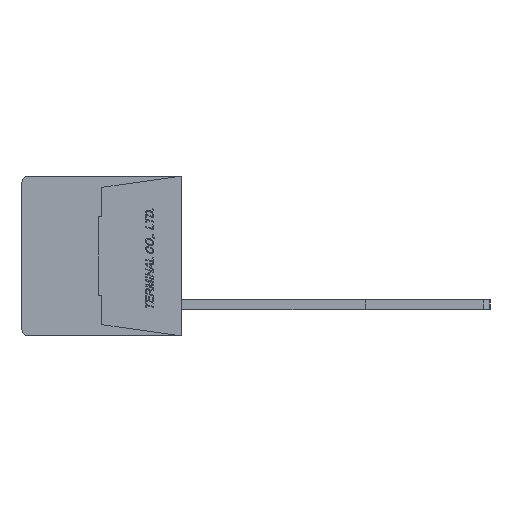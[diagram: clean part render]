
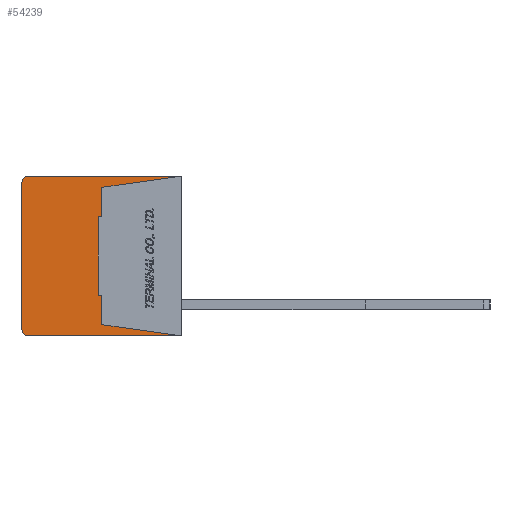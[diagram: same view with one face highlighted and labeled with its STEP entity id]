
A CAD part, left-side view. The second image highlights one B-rep face of the part: STEP entity #54239.
In plain terms, the highlighted planar face has unit normal (-1, 0, 0).
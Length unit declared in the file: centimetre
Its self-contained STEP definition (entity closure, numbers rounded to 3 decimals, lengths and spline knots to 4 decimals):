
#2768=CIRCLE('',#93139,0.05);
#2769=CIRCLE('',#93142,0.05);
#4961=VERTEX_POINT('',#75951);
#4962=VERTEX_POINT('',#75953);
#4963=VERTEX_POINT('',#75957);
#4964=VERTEX_POINT('',#75961);
#4965=VERTEX_POINT('',#75965);
#4966=VERTEX_POINT('',#75969);
#4967=VERTEX_POINT('',#75972);
#4968=VERTEX_POINT('',#75974);
#4969=VERTEX_POINT('',#75976);
#4970=VERTEX_POINT('',#75978);
#4971=VERTEX_POINT('',#75980);
#4972=VERTEX_POINT('',#75982);
#10605=VECTOR('',#63071,1.);
#10609=VECTOR('',#63080,1.);
#10612=VECTOR('',#63088,1.);
#10613=VECTOR('',#63089,1.);
#10614=VECTOR('',#63090,1.);
#10615=VECTOR('',#63091,1.);
#10616=VECTOR('',#63092,1.);
#10617=VECTOR('',#63093,1.);
#10618=VECTOR('',#63094,1.);
#10619=VECTOR('',#63095,1.);
#16961=LINE('',#75952,#10605);
#16965=LINE('',#75962,#10609);
#16968=LINE('',#75970,#10612);
#16969=LINE('',#75971,#10613);
#16970=LINE('',#75973,#10614);
#16971=LINE('',#75975,#10615);
#16972=LINE('',#75977,#10616);
#16973=LINE('',#75979,#10617);
#16974=LINE('',#75981,#10618);
#16975=LINE('',#75983,#10619);
#24147=EDGE_CURVE('',#4962,#4961,#16961,.T.);
#24150=EDGE_CURVE('',#4963,#4961,#2768,.T.);
#24152=EDGE_CURVE('',#4963,#4964,#16965,.T.);
#24154=EDGE_CURVE('',#4965,#4964,#2769,.T.);
#24156=EDGE_CURVE('',#4965,#4966,#16968,.T.);
#24157=EDGE_CURVE('',#4967,#4962,#16969,.T.);
#24158=EDGE_CURVE('',#4966,#4968,#16970,.T.);
#24159=EDGE_CURVE('',#4968,#4969,#16971,.T.);
#24160=EDGE_CURVE('',#4969,#4970,#16972,.T.);
#24161=EDGE_CURVE('',#4970,#4971,#16973,.T.);
#24162=EDGE_CURVE('',#4971,#4972,#16974,.T.);
#24163=EDGE_CURVE('',#4972,#4967,#16975,.T.);
#35175=ORIENTED_EDGE('',*,*,#24157,.T.);
#35176=ORIENTED_EDGE('',*,*,#24147,.T.);
#35177=ORIENTED_EDGE('',*,*,#24150,.F.);
#35178=ORIENTED_EDGE('',*,*,#24152,.T.);
#35179=ORIENTED_EDGE('',*,*,#24154,.F.);
#35180=ORIENTED_EDGE('',*,*,#24156,.T.);
#35181=ORIENTED_EDGE('',*,*,#24158,.T.);
#35182=ORIENTED_EDGE('',*,*,#24159,.T.);
#35183=ORIENTED_EDGE('',*,*,#24160,.T.);
#35184=ORIENTED_EDGE('',*,*,#24161,.T.);
#35185=ORIENTED_EDGE('',*,*,#24162,.T.);
#35186=ORIENTED_EDGE('',*,*,#24163,.T.);
#47283=EDGE_LOOP('',(#35175,#35176,#35177,#35178,#35179,#35180,#35181,#35182,
#35183,#35184,#35185,#35186));
#50863=FACE_BOUND('',#47283,.T.);
#54239=ADVANCED_FACE('',(#50863),#57156,.F.);
#57156=PLANE('',#93136);
#62957=DIRECTION('',(1.,0.,0.));
#63071=DIRECTION('',(0.,1.,0.));
#63076=DIRECTION('',(1.,0.,0.));
#63077=DIRECTION('',(0.,0.,-0.05));
#63080=DIRECTION('',(0.,0.,-1.));
#63084=DIRECTION('',(1.,0.,0.));
#63085=DIRECTION('',(0.,0.,-0.05));
#63088=DIRECTION('',(0.,-1.,0.));
#63089=DIRECTION('',(0.,-0.99,0.139));
#63090=DIRECTION('',(0.,0.99,0.139));
#63091=DIRECTION('',(0.,0.,1.));
#63092=DIRECTION('',(0.,1.,0.));
#63093=DIRECTION('',(0.,0.,1.));
#63094=DIRECTION('',(0.,-1.,0.));
#63095=DIRECTION('',(0.,0.,1.));
#75518=CARTESIAN_POINT('',(-0.889,0.6345,0.));
#75951=CARTESIAN_POINT('',(-0.889,1.23,0.64));
#75952=CARTESIAN_POINT('',(-0.889,0.,0.64));
#75953=CARTESIAN_POINT('',(-0.889,0.,0.64));
#75957=CARTESIAN_POINT('',(-0.889,1.28,0.59));
#75958=CARTESIAN_POINT('',(-0.889,1.23,0.59));
#75961=CARTESIAN_POINT('',(-0.889,1.28,-0.59));
#75962=CARTESIAN_POINT('',(-0.889,1.28,0.59));
#75965=CARTESIAN_POINT('',(-0.889,1.23,-0.64));
#75966=CARTESIAN_POINT('',(-0.889,1.23,-0.59));
#75969=CARTESIAN_POINT('',(-0.889,0.,-0.64));
#75970=CARTESIAN_POINT('',(-0.889,1.23,-0.64));
#75971=CARTESIAN_POINT('',(-0.889,0.64,0.55));
#75972=CARTESIAN_POINT('',(-0.889,0.64,0.55));
#75973=CARTESIAN_POINT('',(-0.889,0.,-0.64));
#75974=CARTESIAN_POINT('',(-0.889,0.64,-0.55));
#75975=CARTESIAN_POINT('',(-0.889,0.64,-0.55));
#75976=CARTESIAN_POINT('',(-0.889,0.64,-0.315));
#75977=CARTESIAN_POINT('',(-0.889,0.64,-0.315));
#75978=CARTESIAN_POINT('',(-0.889,0.67,-0.315));
#75979=CARTESIAN_POINT('',(-0.889,0.67,-0.315));
#75980=CARTESIAN_POINT('',(-0.889,0.67,0.315));
#75981=CARTESIAN_POINT('',(-0.889,0.67,0.315));
#75982=CARTESIAN_POINT('',(-0.889,0.64,0.315));
#75983=CARTESIAN_POINT('',(-0.889,0.64,0.315));
#93136=AXIS2_PLACEMENT_3D('',#75518,#62957,$);
#93139=AXIS2_PLACEMENT_3D('',#75958,#63076,#63077);
#93142=AXIS2_PLACEMENT_3D('',#75966,#63084,#63085);
